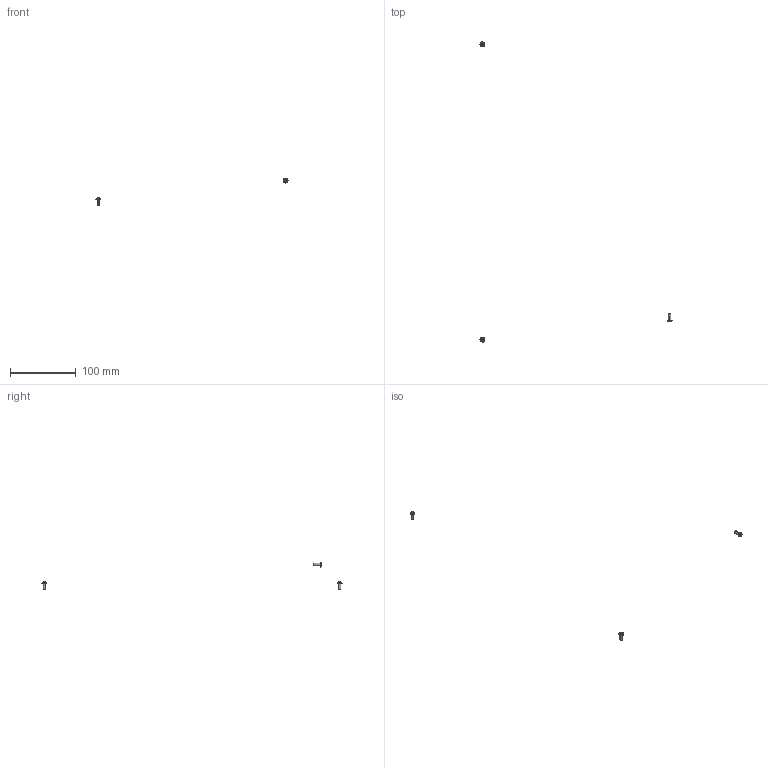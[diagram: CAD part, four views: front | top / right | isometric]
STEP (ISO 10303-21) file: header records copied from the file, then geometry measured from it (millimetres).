
FILE_DESCRIPTION(/* description */ (''),/* implementation_level */ '2;1');
FILE_NAME(/* name */ '10.optics-laser#10.2#',/* time_stamp */ '2014-12-01T20:19:02+01:00',/* author */ (''),/* organization */ (''),/* preprocessor_version */ 'ST-DEVELOPER v14',/* originating_system */ '',/* authorisation */ '');
FILE_SCHEMA (('AUTOMOTIVE_DESIGN'));
Length unit declared in the file: millimetre
Products named in the file (2): Document; screw ISO7380, button, M4x10
Assembly tree (3 placements, depth 2):
  Document
    screw ISO7380, button, M4x10  x3
Bounding box: 292.59 x 457.2 x 42.5 mm (x, y, z)
Volume: 583.3 mm3; surface area: 716 mm2
Topology: 3 solids, 3 shells, 39 faces, 78 edges, 39 vertices
Faces by surface type: bspline 36, plane 3
Entity records: 822 total; most frequent: CARTESIAN_POINT 450, B_SPLINE_CURVE_WITH_KNOTS 53, ORIENTED_EDGE 48, PCURVE 48, DEFINITIONAL_REPRESENTATION 48, SURFACE_CURVE 24, EDGE_CURVE 24, ADVANCED_FACE 13
